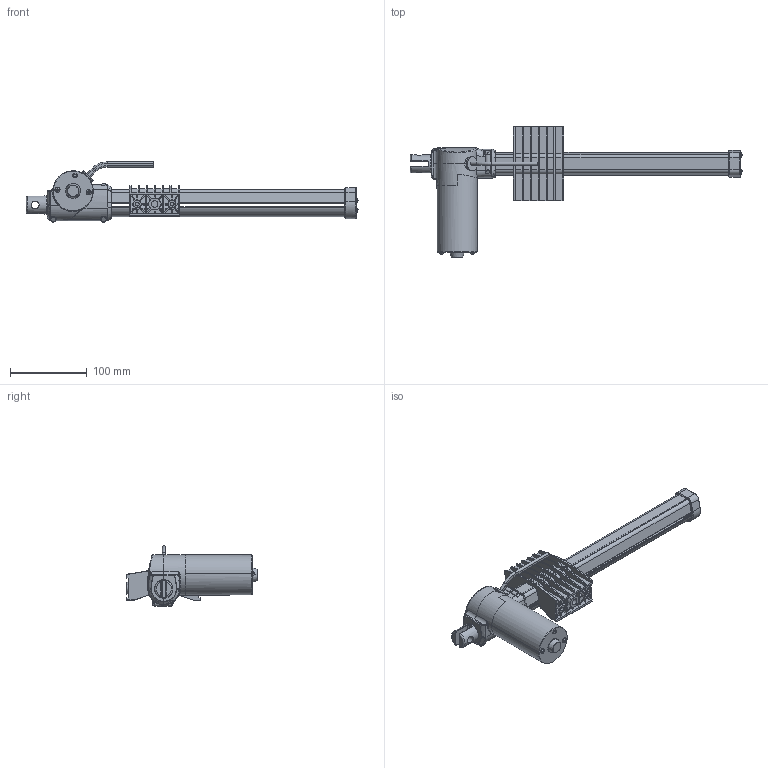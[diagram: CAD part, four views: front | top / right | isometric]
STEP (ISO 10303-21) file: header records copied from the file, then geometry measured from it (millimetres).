
FILE_DESCRIPTION((''),'2;1');
FILE_NAME('ASM0001_ASM','2017-06-08T',('user'),(''),'PRO/ENGINEER BY PARAMETRIC TECHNOLOGY CORPORATION, 2008090','PRO/ENGINEER BY PARAMETRIC TECHNOLOGY CORPORATION, 2008090','');
FILE_SCHEMA(('CONFIG_CONTROL_DESIGN'));
Length unit declared in the file: metre
Products named in the file (3): ASM0003_ASM; LUOMU; ASM0001_ASM
Assembly tree (2 placements, depth 2):
  ASM0001_ASM
    ASM0003_ASM
    LUOMU
Bounding box: 433.5 x 170.92 x 78.73 mm (x, y, z)
Volume: 98444 mm3; surface area: 272066.7 mm2
Topology: 1 solids, 30 shells, 2715 faces, 7863 edges, 5165 vertices
Faces by surface type: plane 1286, cylinder 809, bspline 235, cone 197, torus 170, sphere 18
Entity records: 101553 total; most frequent: CARTESIAN_POINT 31975, ORIENTED_EDGE 15325, DIRECTION 13593, EDGE_CURVE 7836, VERTEX_POINT 5164, AXIS2_PLACEMENT_3D 4790, VECTOR 4013, LINE 4013
